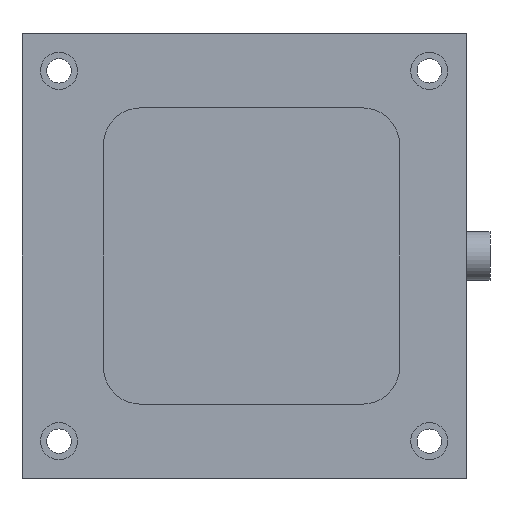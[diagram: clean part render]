
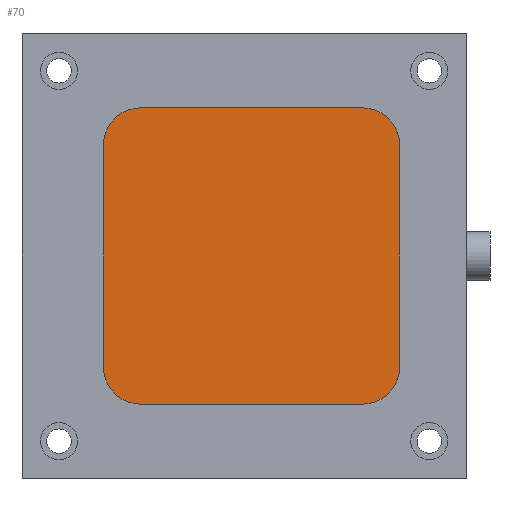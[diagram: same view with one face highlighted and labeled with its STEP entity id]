
A CAD part, front view. The second image highlights one B-rep face of the part: STEP entity #70.
In plain terms, the highlighted planar face has unit normal (0, -1, 0).
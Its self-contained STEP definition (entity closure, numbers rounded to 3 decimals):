
#70 = ADVANCED_FACE ( 'NONE', ( #2237 ), #2236, .F. ) ;
#366 = DIRECTION ( 'NONE',  ( 0., 0., 1. ) ) ;
#367 = DIRECTION ( 'NONE',  ( 0., -1., 0. ) ) ;
#368 = CARTESIAN_POINT ( 'NONE',  ( -14., -79.8, -15. ) ) ;
#480 = DIRECTION ( 'NONE',  ( 0., 0., -1. ) ) ;
#481 = CARTESIAN_POINT ( 'NONE',  ( -19., -79.8, -10. ) ) ;
#483 = LINE ( 'NONE', #481, #1384 ) ;
#497 = ORIENTED_EDGE ( 'NONE', *, *, #1796, .T. ) ;
#509 = ORIENTED_EDGE ( 'NONE', *, *, #2430, .T. ) ;
#727 = EDGE_LOOP ( 'NONE', ( #497, #4182, #4203, #4195, #4184, #796, #761, #509 ) ) ;
#761 = ORIENTED_EDGE ( 'NONE', *, *, #2475, .T. ) ;
#796 = ORIENTED_EDGE ( 'NONE', *, *, #1783, .T. ) ;
#1132 = DIRECTION ( 'NONE',  ( 0., 0., 1. ) ) ;
#1133 = DIRECTION ( 'NONE',  ( 0., -1., 0. ) ) ;
#1134 = CARTESIAN_POINT ( 'NONE',  ( -14., -79.8, -45. ) ) ;
#1138 = DIRECTION ( 'NONE',  ( 1., 0., 0. ) ) ;
#1190 = DIRECTION ( 'NONE',  ( -1., 0., 0. ) ) ;
#1191 = CARTESIAN_POINT ( 'NONE',  ( 21., -79.8, -10. ) ) ;
#1193 = LINE ( 'NONE', #1191, #1464 ) ;
#1225 = AXIS2_PLACEMENT_3D ( 'NONE', #368, #367, #366 ) ;
#1281 = AXIS2_PLACEMENT_3D ( 'NONE', #1134, #1133, #1132 ) ;
#1350 = CIRCLE ( 'NONE', #1281, 5. ) ;
#1363 = VECTOR ( 'NONE', #1138, 1000. ) ;
#1383 = VECTOR ( 'NONE', #2861, 1000. ) ;
#1384 = VECTOR ( 'NONE', #480, 1000. ) ;
#1391 = CIRCLE ( 'NONE', #1225, 5. ) ;
#1456 = CIRCLE ( 'NONE', #1487, 5. ) ;
#1464 = VECTOR ( 'NONE', #1190, 1000. ) ;
#1487 = AXIS2_PLACEMENT_3D ( 'NONE', #2725, #2726, #2727 ) ;
#1537 = DIRECTION ( 'NONE',  ( 0., 0., 1. ) ) ;
#1538 = DIRECTION ( 'NONE',  ( 0., -1., 0. ) ) ;
#1539 = CARTESIAN_POINT ( 'NONE',  ( 16., -79.8, -45. ) ) ;
#1541 = LINE ( 'NONE', #1542, #1363 ) ;
#1542 = CARTESIAN_POINT ( 'NONE',  ( 21., -79.8, -50. ) ) ;
#1783 = EDGE_CURVE ( 'NONE', #4283, #3794, #4072, .T. ) ;
#1788 = EDGE_CURVE ( 'NONE', #3788, #4283, #1541, .T. ) ;
#1796 = EDGE_CURVE ( 'NONE', #3779, #3886, #1193, .T. ) ;
#1812 = EDGE_CURVE ( 'NONE', #4305, #3788, #1350, .T. ) ;
#1837 = EDGE_CURVE ( 'NONE', #3886, #3893, #1391, .T. ) ;
#1861 = EDGE_CURVE ( 'NONE', #3893, #4305, #483, .T. ) ;
#2232 = DIRECTION ( 'NONE',  ( 0., 0., 1. ) ) ;
#2233 = DIRECTION ( 'NONE',  ( 0., 1., 0. ) ) ;
#2236 = PLANE ( 'NONE',  #3917 ) ;
#2237 = FACE_OUTER_BOUND ( 'NONE', #727, .T. ) ;
#2240 = CARTESIAN_POINT ( 'NONE',  ( -19., -79.8, -50. ) ) ;
#2430 = EDGE_CURVE ( 'NONE', #4287, #3779, #1456, .T. ) ;
#2475 = EDGE_CURVE ( 'NONE', #3794, #4287, #2842, .T. ) ;
#2725 = CARTESIAN_POINT ( 'NONE',  ( 16., -79.8, -15. ) ) ;
#2726 = DIRECTION ( 'NONE',  ( 0., -1., 0. ) ) ;
#2727 = DIRECTION ( 'NONE',  ( 0., 0., 1. ) ) ;
#2842 = LINE ( 'NONE', #2850, #1383 ) ;
#2850 = CARTESIAN_POINT ( 'NONE',  ( 21., -79.8, -10. ) ) ;
#2861 = DIRECTION ( 'NONE',  ( 0., 0., 1. ) ) ;
#3493 = CARTESIAN_POINT ( 'NONE',  ( 16., -79.8, -10. ) ) ;
#3502 = CARTESIAN_POINT ( 'NONE',  ( -14., -79.8, -50. ) ) ;
#3508 = CARTESIAN_POINT ( 'NONE',  ( 21., -79.8, -45. ) ) ;
#3600 = CARTESIAN_POINT ( 'NONE',  ( -14., -79.8, -10. ) ) ;
#3607 = CARTESIAN_POINT ( 'NONE',  ( -19., -79.8, -15. ) ) ;
#3637 = CARTESIAN_POINT ( 'NONE',  ( 21., -79.8, -15. ) ) ;
#3647 = CARTESIAN_POINT ( 'NONE',  ( 16., -79.8, -50. ) ) ;
#3658 = CARTESIAN_POINT ( 'NONE',  ( -19., -79.8, -45. ) ) ;
#3779 = VERTEX_POINT ( 'NONE', #3493 ) ;
#3788 = VERTEX_POINT ( 'NONE', #3502 ) ;
#3794 = VERTEX_POINT ( 'NONE', #3508 ) ;
#3886 = VERTEX_POINT ( 'NONE', #3600 ) ;
#3893 = VERTEX_POINT ( 'NONE', #3607 ) ;
#3917 = AXIS2_PLACEMENT_3D ( 'NONE', #2240, #2233, #2232 ) ;
#3921 = AXIS2_PLACEMENT_3D ( 'NONE', #1539, #1538, #1537 ) ;
#4072 = CIRCLE ( 'NONE', #3921, 5. ) ;
#4182 = ORIENTED_EDGE ( 'NONE', *, *, #1837, .T. ) ;
#4184 = ORIENTED_EDGE ( 'NONE', *, *, #1788, .T. ) ;
#4195 = ORIENTED_EDGE ( 'NONE', *, *, #1812, .T. ) ;
#4203 = ORIENTED_EDGE ( 'NONE', *, *, #1861, .T. ) ;
#4283 = VERTEX_POINT ( 'NONE', #3647 ) ;
#4287 = VERTEX_POINT ( 'NONE', #3637 ) ;
#4305 = VERTEX_POINT ( 'NONE', #3658 ) ;
